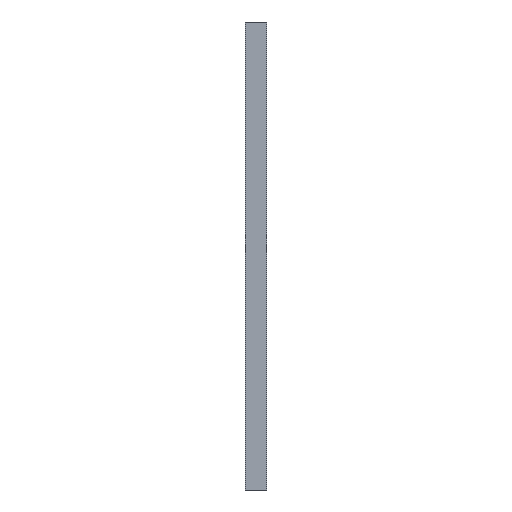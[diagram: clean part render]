
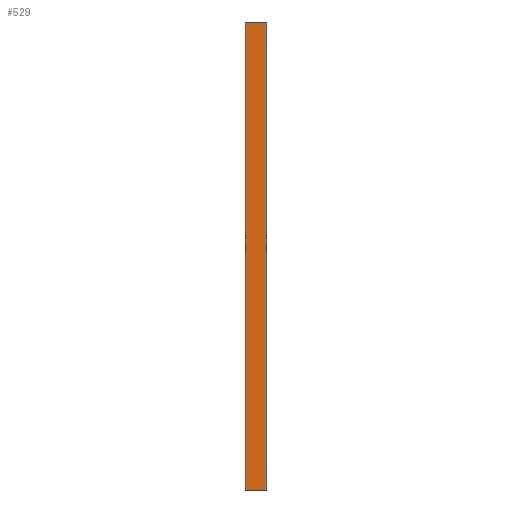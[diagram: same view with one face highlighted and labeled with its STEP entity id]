
A CAD part, left-side view. The second image highlights one B-rep face of the part: STEP entity #529.
In plain terms, the highlighted planar face has unit normal (-1, 0, 0).
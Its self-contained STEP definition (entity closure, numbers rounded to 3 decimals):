
#21=PLANE('',#601);
#44=FACE_OUTER_BOUND('',#72,.T.);
#72=EDGE_LOOP('',(#424,#425,#426,#427));
#99=LINE('',#838,#151);
#120=LINE('',#895,#172);
#121=LINE('',#898,#173);
#122=LINE('',#899,#174);
#151=VECTOR('',#665,10.);
#172=VECTOR('',#726,10.);
#173=VECTOR('',#729,10.);
#174=VECTOR('',#730,10.);
#241=VERTEX_POINT('',#835);
#242=VERTEX_POINT('',#837);
#257=VERTEX_POINT('',#891);
#259=VERTEX_POINT('',#897);
#294=EDGE_CURVE('',#242,#241,#99,.T.);
#323=EDGE_CURVE('',#242,#257,#120,.T.);
#324=EDGE_CURVE('',#259,#241,#121,.T.);
#325=EDGE_CURVE('',#259,#257,#122,.T.);
#424=ORIENTED_EDGE('',*,*,#323,.F.);
#425=ORIENTED_EDGE('',*,*,#294,.T.);
#426=ORIENTED_EDGE('',*,*,#324,.F.);
#427=ORIENTED_EDGE('',*,*,#325,.T.);
#529=ADVANCED_FACE('',(#44),#21,.T.);
#601=AXIS2_PLACEMENT_3D('',#896,#727,#728);
#665=DIRECTION('',(0.,-1.,0.));
#726=DIRECTION('',(0.,0.,1.));
#727=DIRECTION('center_axis',(-1.,0.,0.));
#728=DIRECTION('ref_axis',(0.,0.,1.));
#729=DIRECTION('',(0.,0.,-1.));
#730=DIRECTION('',(0.,1.,0.));
#835=CARTESIAN_POINT('',(-2.,-1.526,0.));
#837=CARTESIAN_POINT('',(-2.,231.374,0.));
#838=CARTESIAN_POINT('',(-2.,231.833,0.));
#891=CARTESIAN_POINT('',(-2.,231.374,5000.));
#895=CARTESIAN_POINT('',(-2.,231.374,0.));
#896=CARTESIAN_POINT('Origin',(-2.,-2.035,0.));
#897=CARTESIAN_POINT('',(-2.,-1.526,5000.));
#898=CARTESIAN_POINT('',(-2.,-1.526,0.));
#899=CARTESIAN_POINT('',(-2.,231.833,5000.));
